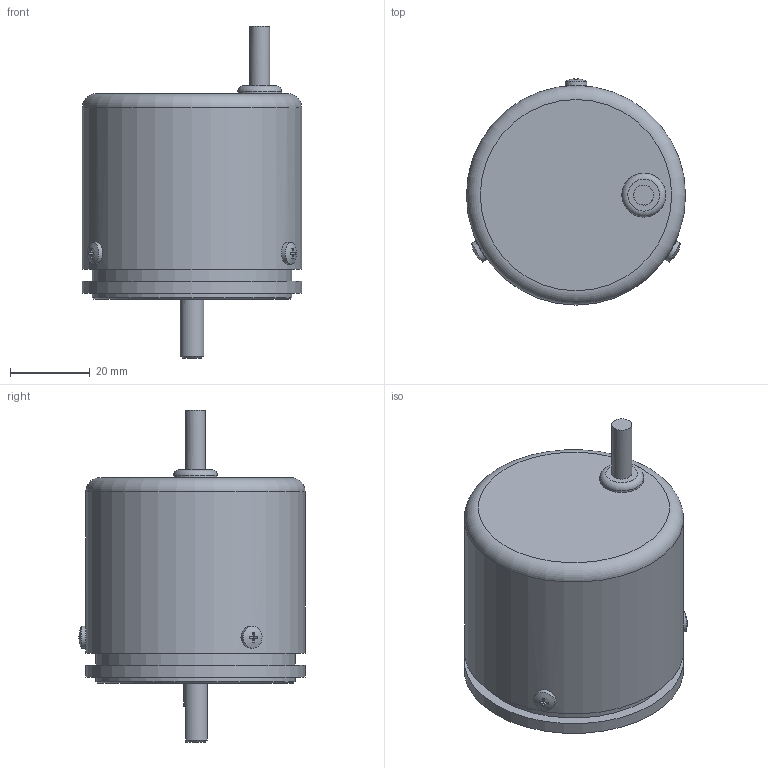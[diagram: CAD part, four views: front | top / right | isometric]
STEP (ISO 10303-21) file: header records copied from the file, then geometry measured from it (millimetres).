
FILE_DESCRIPTION(('STEP AP214'),'1');
FILE_NAME('A.stp','2023-04-20T06:49:39',(' '),(' '),'Spatial InterOp 3D',' ',' ');
FILE_SCHEMA(('AUTOMOTIVE_DESIGN { 1 0 10303 214 1 1 1 1 }'));
Length unit declared in the file: millimetre
Products named in the file (1):  MES-45-＊＊＊-05□▽A
Bounding box: 55 x 56.74 x 83.3 mm (x, y, z)
Volume: 120775.4 mm3; surface area: 15104.6 mm2
Topology: 1 solids, 1 shells, 93 faces, 214 edges, 142 vertices
Faces by surface type: plane 56, cylinder 27, cone 4, torus 3, sphere 3
Full cylindrical faces by diameter (mm): 0.63 x1, 2.5 x6, 2.6 x3, 3.3 x3, 5 x1, 5.5 x3, 6 x1, 11 x1, 28 x1, 50 x2, 55 x2
Entity records: 3669 total; most frequent: CARTESIAN_POINT 930, DIRECTION 415, ORIENTED_EDGE 330, AXIS2_PLACEMENT_3D 170, EDGE_CURVE 165, EDGE_LOOP 145, VERTEX_POINT 127, FACE_OUTER_BOUND 123
